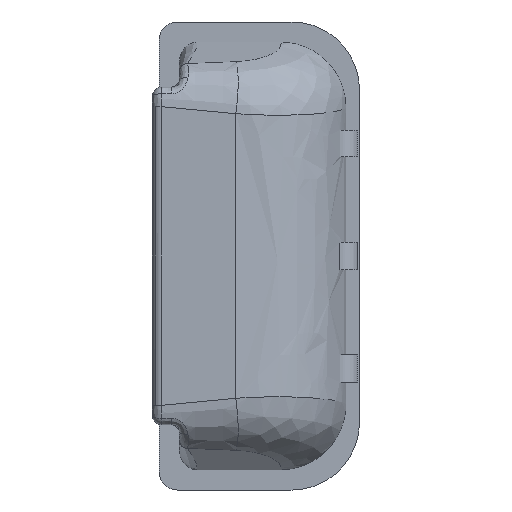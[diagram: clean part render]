
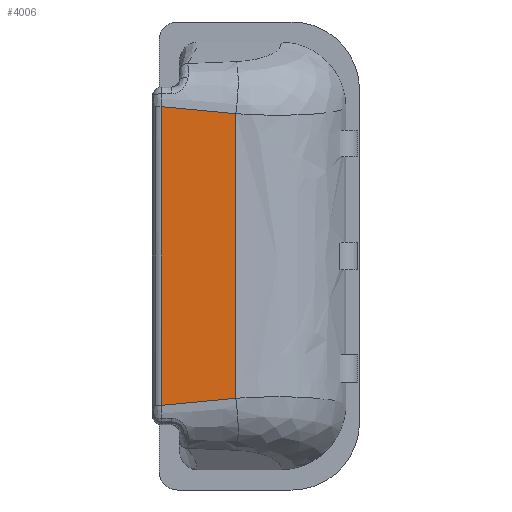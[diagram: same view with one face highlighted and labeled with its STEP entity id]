
A CAD part, front view. The second image highlights one B-rep face of the part: STEP entity #4006.
In plain terms, the highlighted planar face has unit normal (0, -1, 0).
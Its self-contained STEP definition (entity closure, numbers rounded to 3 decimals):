
#314 = CARTESIAN_POINT ( 'NONE',  ( -2.995, -10., 31.63 ) ) ;
#715 = CARTESIAN_POINT ( 'NONE',  ( -4.455, -10., -31.833 ) ) ;
#871 = CARTESIAN_POINT ( 'NONE',  ( -19.5, -10., -33.193 ) ) ;
#886 = CARTESIAN_POINT ( 'NONE',  ( -11.161, -10., 32.634 ) ) ;
#980 = DIRECTION ( 'NONE',  ( 0., 0., -1. ) ) ;
#992 = B_SPLINE_CURVE_WITH_KNOTS ( 'NONE', 3,
 ( #8079, #715, #7286, #9147, #8404, #7498, #8190, #7339, #9848, #4970 ),
 .UNSPECIFIED., .F., .F.,
 ( 4, 3, 3, 4 ),
 ( 1.98, 2.448, 2.967, 3.661 ),
 .UNSPECIFIED. ) ;
#1232 = CARTESIAN_POINT ( 'NONE',  ( -19.5, -10., -33.193 ) ) ;
#1684 = PLANE ( 'NONE',  #3739 ) ;
#2005 = VECTOR ( 'NONE', #7795, 1000. ) ;
#2108 = ORIENTED_EDGE ( 'NONE', *, *, #2805, .F. ) ;
#2113 = CARTESIAN_POINT ( 'NONE',  ( -19.5, -10., 33.193 ) ) ;
#2805 = EDGE_CURVE ( 'NONE', #6620, #7793, #6291, .T. ) ;
#3304 = CARTESIAN_POINT ( 'NONE',  ( -19.5, -10., 33.193 ) ) ;
#3739 = AXIS2_PLACEMENT_3D ( 'NONE', #6644, #4973, #5028 ) ;
#4006 = ADVANCED_FACE ( 'NONE', ( #5724 ), #1684, .T. ) ;
#4167 = CARTESIAN_POINT ( 'NONE',  ( -6.578, -10., 32.105 ) ) ;
#4498 = EDGE_LOOP ( 'NONE', ( #2108, #8689, #9744, #10343 ) ) ;
#4970 = CARTESIAN_POINT ( 'NONE',  ( -19.5, -10., -33.193 ) ) ;
#4973 = DIRECTION ( 'NONE',  ( 0., -1., 0. ) ) ;
#5025 = CARTESIAN_POINT ( 'NONE',  ( -2.995, -10., -31.63 ) ) ;
#5028 = DIRECTION ( 'NONE',  ( 0., 0., -1. ) ) ;
#5077 = LINE ( 'NONE', #8295, #5973 ) ;
#5724 = FACE_OUTER_BOUND ( 'NONE', #4498, .T. ) ;
#5790 = CARTESIAN_POINT ( 'NONE',  ( -9.627, -10., 32.477 ) ) ;
#5973 = VECTOR ( 'NONE', #980, 1000. ) ;
#6291 = LINE ( 'NONE', #1232, #2005 ) ;
#6292 = CARTESIAN_POINT ( 'NONE',  ( -2.995, -10., 31.63 ) ) ;
#6392 = VERTEX_POINT ( 'NONE', #6292 ) ;
#6594 = CARTESIAN_POINT ( 'NONE',  ( -16.7, -10., 33.124 ) ) ;
#6620 = VERTEX_POINT ( 'NONE', #871 ) ;
#6644 = CARTESIAN_POINT ( 'NONE',  ( 21.5, -10., 0. ) ) ;
#7286 = CARTESIAN_POINT ( 'NONE',  ( -5.986, -10., -32.034 ) ) ;
#7339 = CARTESIAN_POINT ( 'NONE',  ( -14.888, -10., -32.984 ) ) ;
#7494 = EDGE_CURVE ( 'NONE', #7793, #6392, #9617, .T. ) ;
#7498 = CARTESIAN_POINT ( 'NONE',  ( -10.898, -10., -32.617 ) ) ;
#7793 = VERTEX_POINT ( 'NONE', #2113 ) ;
#7795 = DIRECTION ( 'NONE',  ( 0., 0., 1. ) ) ;
#8023 = EDGE_CURVE ( 'NONE', #6392, #9184, #5077, .T. ) ;
#8079 = CARTESIAN_POINT ( 'NONE',  ( -2.995, -10., -31.63 ) ) ;
#8190 = CARTESIAN_POINT ( 'NONE',  ( -12.606, -10., -32.774 ) ) ;
#8295 = CARTESIAN_POINT ( 'NONE',  ( -2.995, -10., 31.63 ) ) ;
#8404 = CARTESIAN_POINT ( 'NONE',  ( -9.2, -10., -32.427 ) ) ;
#8416 = CARTESIAN_POINT ( 'NONE',  ( -3.112, -10., 31.646 ) ) ;
#8569 = CARTESIAN_POINT ( 'NONE',  ( -3.348, -10., 31.679 ) ) ;
#8689 = ORIENTED_EDGE ( 'NONE', *, *, #9073, .F. ) ;
#9053 = CARTESIAN_POINT ( 'NONE',  ( -8.103, -10., 32.297 ) ) ;
#9073 = EDGE_CURVE ( 'NONE', #9184, #6620, #992, .T. ) ;
#9147 = CARTESIAN_POINT ( 'NONE',  ( -7.509, -10., -32.22 ) ) ;
#9184 = VERTEX_POINT ( 'NONE', #5025 ) ;
#9264 = CARTESIAN_POINT ( 'NONE',  ( -3.23, -10., 31.662 ) ) ;
#9476 = CARTESIAN_POINT ( 'NONE',  ( -4.401, -10., 31.824 ) ) ;
#9617 = B_SPLINE_CURVE_WITH_KNOTS ( 'NONE', 3,
 ( #3304, #6594, #9860, #886, #5790, #9053, #4167, #10235, #9476, #8569, #9264, #8416, #314 ),
 .UNSPECIFIED., .F., .F.,
 ( 4, 3, 3, 3, 4 ),
 ( 0.2, 1.041, 1.509, 1.844, 1.882 ),
 .UNSPECIFIED. ) ;
#9744 = ORIENTED_EDGE ( 'NONE', *, *, #8023, .F. ) ;
#9848 = CARTESIAN_POINT ( 'NONE',  ( -17.189, -10., -33.136 ) ) ;
#9860 = CARTESIAN_POINT ( 'NONE',  ( -13.916, -10., 32.916 ) ) ;
#10235 = CARTESIAN_POINT ( 'NONE',  ( -5.487, -10., 31.967 ) ) ;
#10343 = ORIENTED_EDGE ( 'NONE', *, *, #7494, .F. ) ;
